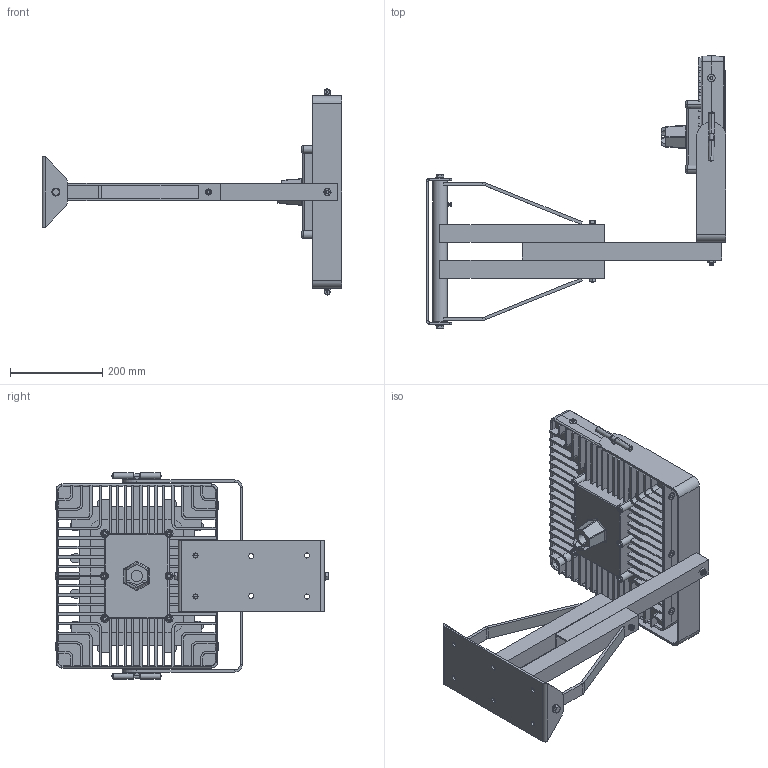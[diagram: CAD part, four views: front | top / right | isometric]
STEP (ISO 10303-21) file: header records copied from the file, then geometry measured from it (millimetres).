
FILE_DESCRIPTION (( 'STEP AP214' ), '1' );
FILE_NAME ('EPL-SBDL-150RT-24.STEP', '2016-01-12T19:19:31', ( '' ), ( '' ), 'SwSTEP 2.0', 'SolidWorks 2016', '' );
FILE_SCHEMA (( 'AUTOMOTIVE_DESIGN' ));
Length unit declared in the file: inch
Products named in the file (20): machine screw nut hex_ai_MSHXNUT 0.190-32-S-N; Switchblade Docklight Brace; hex bolt_ai_HBOLT 0.3125-18x2.25x0.875-S; Switchblade Docklight Base Arm_24; Switchblade Docklight Rod; hex bolt_ai_HBOLT 0.3125-18x5x0.875-S; Switchblade Docklight Trunnion; lock washer spring regular_ai_Regular LW 0.3125; Switchblade Docklight Solid Rod; Switchblade Docklight Base; machine screw nut hex_ai_MSHXNUT 0.3125-18-S-N; EPL-SBDL-150RT-24; hex screw_ai_PL-HHMS 0.19-24x0.375x0.375-S; hex bolt_ai_HBOLT 0.3750-24x1x1-S; lock washer spring regular_ai_Regular LW 0.375; .3125 T handle; Switchblade Docklight Arm_24; EPL-HB-150LED-RT Base; Switchblade Docklight Arm Weld_24; hex nut_ai_HNUT 0.3125-18-D-N
Assembly tree (25 placements, depth 3):
  EPL-SBDL-150RT-24
    Switchblade Docklight Base
    Switchblade Docklight Solid Rod
    Switchblade Docklight Trunnion
    Switchblade Docklight Arm Weld_24
      Switchblade Docklight Rod
      Switchblade Docklight Base Arm_24  x2
      Switchblade Docklight Brace  x2
      machine screw nut hex_ai_MSHXNUT 0.190-32-S-N
      hex nut_ai_HNUT 0.3125-18-D-N
    EPL-HB-150LED-RT Base
    Switchblade Docklight Arm_24
    .3125 T handle  x2
    lock washer spring regular_ai_Regular LW 0.375  x2
    hex bolt_ai_HBOLT 0.3750-24x1x1-S  x2
    hex screw_ai_PL-HHMS 0.19-24x0.375x0.375-S
    machine screw nut hex_ai_MSHXNUT 0.3125-18-S-N
    lock washer spring regular_ai_Regular LW 0.3125  x2
    hex bolt_ai_HBOLT 0.3125-18x5x0.875-S
    hex bolt_ai_HBOLT 0.3125-18x2.25x0.875-S
Bounding box: 649.29 x 590.7 x 446.02 mm (x, y, z)
Volume: 6787299.9 mm3; surface area: 1523824.1 mm2
Topology: 24 solids, 24 shells, 3363 faces, 8763 edges, 5397 vertices
Faces by surface type: plane 1317, cylinder 1201, cone 432, torus 336, bspline 77
Entity records: 101371 total; most frequent: CARTESIAN_POINT 23564, ORIENTED_EDGE 16352, DIRECTION 16269, EDGE_CURVE 8176, AXIS2_PLACEMENT_3D 5821, VERTEX_POINT 5039, VECTOR 4627, LINE 4627
